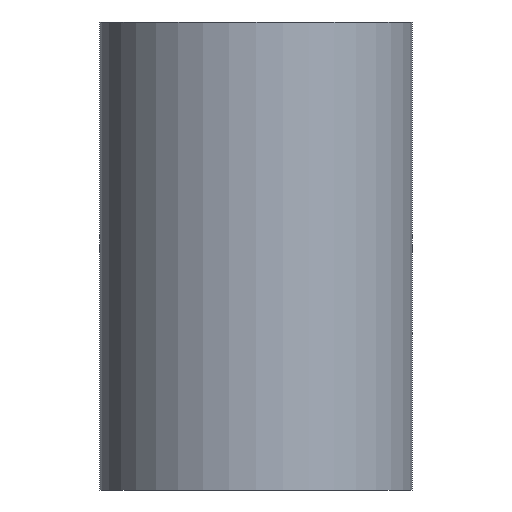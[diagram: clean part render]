
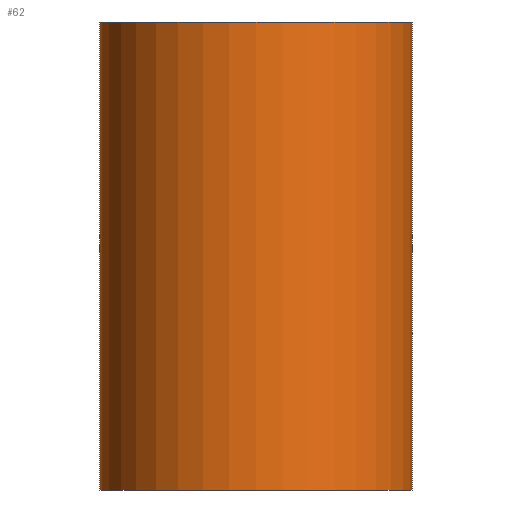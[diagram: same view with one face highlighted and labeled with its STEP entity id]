
A CAD part, left-side view. The second image highlights one B-rep face of the part: STEP entity #62.
In plain terms, the highlighted cylindrical face has radius 10 mm (diameter 20 mm), a full revolution.
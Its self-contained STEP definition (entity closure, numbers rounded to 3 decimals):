
#26=CARTESIAN_POINT('',(0.0,0.0,0.0));
#27=DIRECTION('',(0.0,0.0,1.0));
#28=DIRECTION('',(1.0,0.0,0.0));
#29=AXIS2_PLACEMENT_3D('',#26,#27,#28);
#30=CIRCLE('',#29,10.0);
#31=CARTESIAN_POINT('',(10.0,0.0,0.0));
#32=VERTEX_POINT('',#31);
#33=EDGE_CURVE('',#32,#32,#30,.T.);
#34=CARTESIAN_POINT('',(0.0,0.0,30.0));
#35=DIRECTION('',(0.0,0.0,1.0));
#36=DIRECTION('',(1.0,0.0,0.0));
#37=AXIS2_PLACEMENT_3D('',#34,#35,#36);
#38=CIRCLE('',#37,10.0);
#39=CARTESIAN_POINT('',(10.0,0.0,30.0));
#40=VERTEX_POINT('',#39);
#41=EDGE_CURVE('',#40,#40,#38,.T.);
#51=CARTESIAN_POINT('',(0.0,0.0,0.0));
#52=DIRECTION('',(0.0,0.0,1.0));
#53=DIRECTION('',(1.0,0.0,0.0));
#54=AXIS2_PLACEMENT_3D('',#51,#52,#53);
#55=CYLINDRICAL_SURFACE('',#54,10.0);
#56=ORIENTED_EDGE('',*,*,#33,.T.);
#57=EDGE_LOOP('',(#56));
#58=ORIENTED_EDGE('',*,*,#41,.F.);
#59=EDGE_LOOP('',(#58));
#60=FACE_OUTER_BOUND('',#57,.T.);
#61=FACE_BOUND('',#59,.T.);
#62=ADVANCED_FACE('',(#60,#61),#55,.T.);
